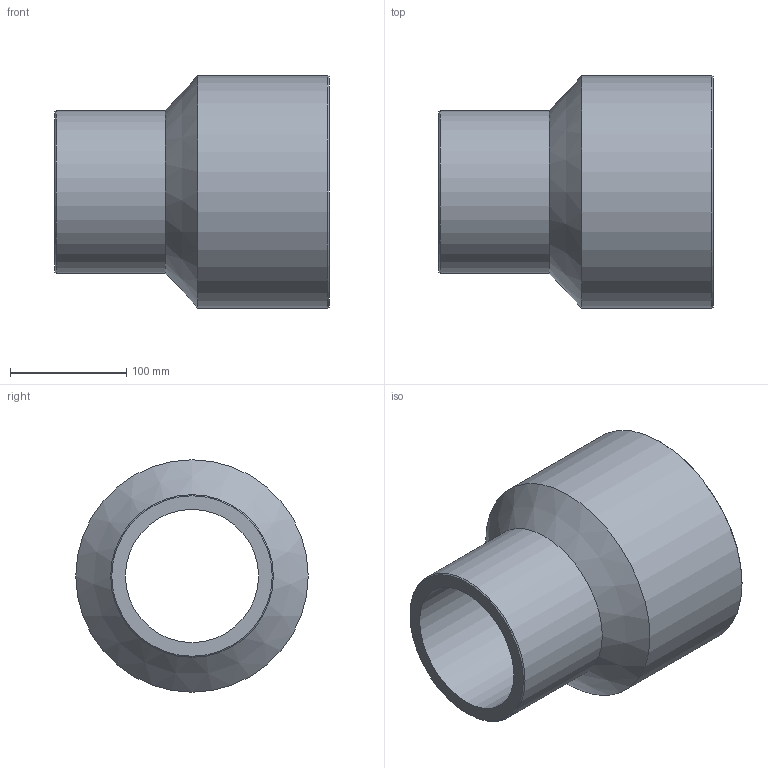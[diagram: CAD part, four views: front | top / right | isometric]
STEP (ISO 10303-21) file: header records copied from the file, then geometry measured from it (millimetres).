
FILE_DESCRIPTION(/* description */ ('Unknown'),/* implementation_level */ '2;1');
FILE_NAME(/* name */ 'RP200140C',/* time_stamp */ '2021-09-17T15:20:18+02:00',/* author */ ('Unknown'),/* organization */ ('Unknown'),/* preprocessor_version */ 'ST-DEVELOPER v16.7',/* originating_system */ 'Solid Edge',/* authorisation */ 'Unknown');
FILE_SCHEMA (('AUTOMOTIVE_DESIGN {1 0 10303 214 3 1 1}'));
Length unit declared in the file: millimetre
Products named in the file (1): RP200140C
Bounding box: 236 x 200 x 200 mm (x, y, z)
Volume: 1987224.7 mm3; surface area: 256184.5 mm2
Topology: 1 solids, 1 shells, 10 faces, 19 edges, 11 vertices
Faces by surface type: cylinder 4, cone 4, plane 2
Full cylindrical faces by diameter (mm): 114.6 x1, 140 x1, 163.6 x1, 200 x1
Entity records: 238 total; most frequent: DIRECTION 42, CARTESIAN_POINT 31, AXIS2_PLACEMENT_3D 21, ORIENTED_EDGE 20, EDGE_LOOP 20, FACE_BOUND 20, EDGE_CURVE 10, VERTEX_POINT 10
